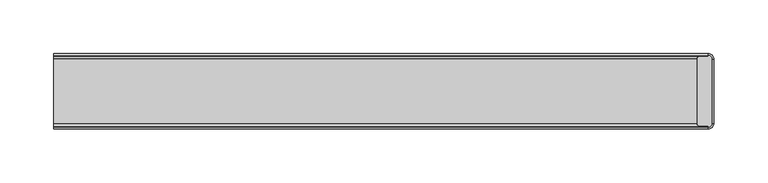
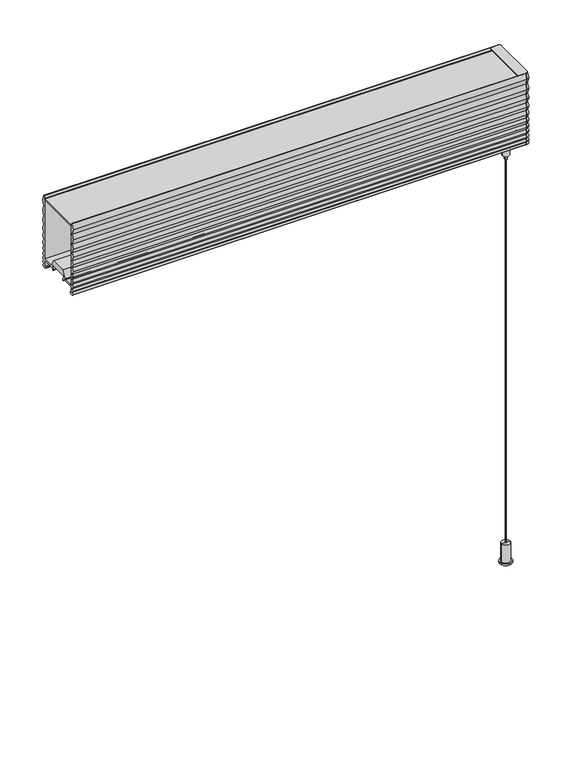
"""IFC4 building model written with IfcOpenShell, lengths in millimetres: light fixture geometry, Lighting-Pendant-Betacalco-Bellows-Straight : BLLC-DT1-SL04-LPF020-CR80-CTA40-DD1-FA01."""

from ifc_helpers import new_model, si_unit, point, frame, frame_2d, origin, place, context, project, spatial, polyline, circle_curve, trimmed, segment, composite_curve, outline, extrude, source, transform, mapped, element, save
from ifc_brep_helpers import plane_surface, cylinder_surface, revolved_surface, advanced_brep


def light_fixture_d8fbe685(model_context):
    return source(origin(), model_context, "Body", "SolidModel", [
        advanced_brep(
        [(304.8, 35.1474913, 611.632), (304.8, 33.3694913, 609.6), (304.8, -33.3694913, 609.6), (304.8, -35.1474913, 611.632), (304.8, -33.3694913, 613.664), (304.8, -35.1474913, 616.204), (304.8, -33.3694913, 618.744), (304.8, -35.1474913, 621.792), (304.8, -33.3694913, 624.84), (304.8, -35.1474913, 628.396), (304.8, -33.3694913, 631.952), (304.8, -35.1474913, 635.762), (304.8, -33.3694913, 639.572), (304.8, -35.11885, 644.0703509), (304.8, -33.3966915, 648.6460566), (304.8, -35.1239968, 653.7288728), (304.8, -33.3919128, 658.8119386), (304.8, -35.1278878, 664.402389), (304.8, -33.3882749, 669.9929656), (304.8, -35.1308966, 676.091104), (304.8, -33.3848944, 682.1911894), (304.8, -35.1351705, 689.3067168), (304.8, -33.3815995, 696.4195673), (304.8, -35.1359826, 703.786321), (304.8, -33.3694913, 711.2), (304.8, -32.6229178, 711.2), (304.8, -32.6229178, 709.8332722), (304.8, 32.6229178, 709.8332722), (304.8, 32.6229178, 711.2), (304.8, 33.3694913, 711.2), (304.8, 35.1359826, 703.786321), (304.8, 33.3815995, 696.4195673), (304.8, 35.1351705, 689.3067168), (304.8, 33.3848944, 682.1911894), (304.8, 35.1308966, 676.091104), (304.8, 33.3882749, 669.9929656), (304.8, 35.1278878, 664.402389), (304.8, 33.3919128, 658.8119386), (304.8, 35.1239968, 653.7288728), (304.8, 33.3966915, 648.6460566), (304.8, 35.11885, 644.0703509), (304.8, 33.3694913, 639.572), (304.8, 35.1474913, 635.762), (304.8, 33.3694913, 631.952), (304.8, 35.1474913, 628.396), (304.8, 33.3694913, 624.84), (304.8, 35.1474913, 621.792), (304.8, 33.3694913, 618.744), (304.8, 35.1474913, 616.204), (304.8, 33.3694913, 613.664), (309.991, 29.9564913, 611.632), (308.213, 29.9564913, 609.6), (308.213, -29.9564913, 609.6), (308.213, 29.9564913, 711.2), (295.9807007, 32.5154703, 711.2), (294.8222216, 31.4000598, 711.2), (294.8222216, -31.4000598, 711.2), (295.9807007, -32.5154703, 711.2), (308.213, -29.9564913, 711.2), (309.9794913, 29.9564913, 703.786321), (308.2251082, 29.9564913, 696.4195673), (309.9786792, 29.9564913, 689.3067168), (308.2284031, 29.9564913, 682.1911894), (309.9744054, 29.9564913, 676.091104), (308.2317837, 29.9564913, 669.9929656), (309.9713965, 29.9564913, 664.402389), (308.2354215, 29.9564913, 658.8119386), (309.9675055, 29.9564913, 653.7288728), (308.2402002, 29.9564913, 648.6460566), (309.9623587, 29.9564913, 644.0703509), (308.213, 29.9564913, 639.572), (309.991, 29.9564913, 635.762), (308.213, 29.9564913, 631.952), (309.991, 29.9564913, 628.396), (308.213, 29.9564913, 624.84), (309.991, 29.9564913, 621.792), (308.213, 29.9564913, 618.744), (309.991, 29.9564913, 616.204), (308.213, 29.9564913, 613.664), (309.991, -29.9564913, 611.632), (309.9794913, -29.9564913, 703.786321), (308.2251082, -29.9564913, 696.4195673), (309.9786792, -29.9564913, 689.3067168), (308.2284031, -29.9564913, 682.1911894), (309.9744054, -29.9564913, 676.091104), (308.2317837, -29.9564913, 669.9929656), (309.9713965, -29.9564913, 664.402389), (308.2354215, -29.9564913, 658.8119386), (309.9675055, -29.9564913, 653.7288728), (308.2402002, -29.9564913, 648.6460566), (309.9623587, -29.9564913, 644.0703509), (308.213, -29.9564913, 639.572), (309.991, -29.9564913, 635.762), (308.213, -29.9564913, 631.952), (309.991, -29.9564913, 628.396), (308.213, -29.9564913, 624.84), (309.991, -29.9564913, 621.792), (308.213, -29.9564913, 618.744), (309.991, -29.9564913, 616.204), (308.213, -29.9564913, 613.664), (294.8222216, -31.4000598, 709.8332722), (294.8222216, 31.4000598, 709.8332722), (295.9807007, 32.5154703, 709.8332722), (295.9807007, -32.5154703, 709.8332722)],
        [
            (0, 1),
            (1, 2),
            (2, 3),
            (3, 4),
            (4, 5),
            (5, 6),
            (6, 7),
            (7, 8),
            (8, 9),
            (9, 10),
            (10, 11),
            (11, 12),
            (12, 13),
            (13, 14),
            (14, 15),
            (15, 16),
            (16, 17),
            (17, 18),
            (18, 19),
            (19, 20),
            (20, 21),
            (21, 22),
            (22, 23),
            (23, 24),
            (24, 25),
            (25, 26),
            (26, 27),
            (27, 28),
            (28, 29),
            (29, 30),
            (30, 31),
            (31, 32),
            (32, 33),
            (33, 34),
            (34, 35),
            (35, 36),
            (36, 37),
            (37, 38),
            (38, 39),
            (39, 40),
            (40, 41),
            (41, 42),
            (42, 43),
            (43, 44),
            (44, 45),
            (45, 46),
            (46, 47),
            (47, 48),
            (48, 49),
            (49, 0),
            (0, 50, circle_curve(frame((304.8, 29.9564913, 611.632), z_axis=(0.0, 0.0, -1.0), x_axis=(0.0, 1.0, 0.0)), 5.191)),
            (50, 51),
            (51, 1, circle_curve(frame((304.8, 29.9564913, 609.6), z_axis=(0.0, 0.0, 1.0), x_axis=(0.0, 1.0, 0.0)), 3.413)),
            (51, 52),
            (52, 2, circle_curve(frame((304.8, -29.9564913, 609.6), z_axis=(0.0, 0.0, -1.0), x_axis=(1.0, 0.0, 0.0)), 3.413)),
            (53, 29, circle_curve(frame((304.8, 29.9564913, 711.2), z_axis=(0.0, 0.0, 1.0), x_axis=(0.0, 1.0, 0.0)), 3.413)),
            (28, 54),
            (54, 55),
            (55, 56),
            (56, 57),
            (57, 25),
            (24, 58, circle_curve(frame((304.8, -29.9564913, 711.2), z_axis=(0.0, 0.0, 1.0), x_axis=(1.0, 0.0, 0.0)), 3.413)),
            (58, 53),
            (53, 59),
            (59, 30, circle_curve(frame((304.8, 29.9564913, 703.786321), z_axis=(0.0, 0.0, 1.0), x_axis=(0.0, 1.0, 0.0)), 5.1794913)),
            (59, 60),
            (60, 31, circle_curve(frame((304.8, 29.9564913, 696.4195673), z_axis=(0.0, 0.0, 1.0), x_axis=(0.0, 1.0, 0.0)), 3.4251082)),
            (60, 61),
            (61, 32, circle_curve(frame((304.8, 29.9564913, 689.3067168), z_axis=(0.0, 0.0, 1.0), x_axis=(0.0, 1.0, 0.0)), 5.1786792)),
            (61, 62),
            (62, 33, circle_curve(frame((304.8, 29.9564913, 682.1911894), z_axis=(0.0, 0.0, 1.0), x_axis=(0.0, 1.0, 0.0)), 3.4284031)),
            (62, 63),
            (63, 34, circle_curve(frame((304.8, 29.9564913, 676.091104), z_axis=(0.0, 0.0, 1.0), x_axis=(0.0, 1.0, 0.0)), 5.1744054)),
            (63, 64),
            (64, 35, circle_curve(frame((304.8, 29.9564913, 669.9929656), z_axis=(0.0, 0.0, 1.0), x_axis=(0.0, 1.0, 0.0)), 3.4317837)),
            (64, 65),
            (65, 36, circle_curve(frame((304.8, 29.9564913, 664.402389), z_axis=(0.0, 0.0, 1.0), x_axis=(0.0, 1.0, 0.0)), 5.1713965)),
            (65, 66),
            (66, 37, circle_curve(frame((304.8, 29.9564913, 658.8119386), z_axis=(0.0, 0.0, 1.0), x_axis=(0.0, 1.0, 0.0)), 3.4354215)),
            (66, 67),
            (67, 38, circle_curve(frame((304.8, 29.9564913, 653.7288728), z_axis=(0.0, 0.0, 1.0), x_axis=(0.0, 1.0, 0.0)), 5.1675055)),
            (67, 68),
            (68, 39, circle_curve(frame((304.8, 29.9564913, 648.6460566), z_axis=(0.0, 0.0, 1.0), x_axis=(0.0, 1.0, 0.0)), 3.4402002)),
            (68, 69),
            (69, 40, circle_curve(frame((304.8, 29.9564913, 644.0703509), z_axis=(0.0, 0.0, 1.0), x_axis=(0.0, 1.0, 0.0)), 5.1623587)),
            (69, 70),
            (70, 41, circle_curve(frame((304.8, 29.9564913, 639.572), z_axis=(0.0, 0.0, 1.0), x_axis=(0.0, 1.0, 0.0)), 3.413)),
            (70, 71),
            (71, 42, circle_curve(frame((304.8, 29.9564913, 635.762), z_axis=(0.0, 0.0, 1.0), x_axis=(0.0, 1.0, 0.0)), 5.191)),
            (71, 72),
            (72, 43, circle_curve(frame((304.8, 29.9564913, 631.952), z_axis=(0.0, 0.0, 1.0), x_axis=(0.0, 1.0, 0.0)), 3.413)),
            (72, 73),
            (73, 44, circle_curve(frame((304.8, 29.9564913, 628.396), z_axis=(0.0, 0.0, 1.0), x_axis=(0.0, 1.0, 0.0)), 5.191)),
            (73, 74),
            (74, 45, circle_curve(frame((304.8, 29.9564913, 624.84), z_axis=(0.0, 0.0, 1.0), x_axis=(0.0, 1.0, 0.0)), 3.413)),
            (74, 75),
            (75, 46, circle_curve(frame((304.8, 29.9564913, 621.792), z_axis=(0.0, 0.0, 1.0), x_axis=(0.0, 1.0, 0.0)), 5.191)),
            (75, 76),
            (76, 47, circle_curve(frame((304.8, 29.9564913, 618.744), z_axis=(0.0, 0.0, 1.0), x_axis=(0.0, 1.0, 0.0)), 3.413)),
            (76, 77),
            (77, 48, circle_curve(frame((304.8, 29.9564913, 616.204), z_axis=(0.0, 0.0, 1.0), x_axis=(0.0, 1.0, 0.0)), 5.191)),
            (77, 78),
            (78, 49, circle_curve(frame((304.8, 29.9564913, 613.664), z_axis=(0.0, 0.0, 1.0), x_axis=(0.0, 1.0, 0.0)), 3.413)),
            (78, 50),
            (50, 79),
            (79, 52),
            (58, 80),
            (80, 59),
            (80, 81),
            (81, 60),
            (81, 82),
            (82, 61),
            (82, 83),
            (83, 62),
            (83, 84),
            (84, 63),
            (84, 85),
            (85, 64),
            (85, 86),
            (86, 65),
            (86, 87),
            (87, 66),
            (87, 88),
            (88, 67),
            (88, 89),
            (89, 68),
            (89, 90),
            (90, 69),
            (90, 91),
            (91, 70),
            (91, 92),
            (92, 71),
            (92, 93),
            (93, 72),
            (93, 94),
            (94, 73),
            (94, 95),
            (95, 74),
            (95, 96),
            (96, 75),
            (96, 97),
            (97, 76),
            (97, 98),
            (98, 77),
            (98, 99),
            (99, 78),
            (99, 79),
            (100, 101),
            (101, 102),
            (102, 27),
            (26, 103),
            (103, 100),
            (56, 100),
            (103, 57),
            (102, 54),
            (101, 55),
            (79, 3, circle_curve(frame((304.8, -29.9564913, 611.632), z_axis=(0.0, 0.0, -1.0), x_axis=(1.0, 0.0, 0.0)), 5.191)),
            (23, 80, circle_curve(frame((304.8, -29.9564913, 703.786321), z_axis=(0.0, 0.0, 1.0), x_axis=(1.0, 0.0, 0.0)), 5.1794913)),
            (22, 81, circle_curve(frame((304.8, -29.9564913, 696.4195673), z_axis=(0.0, 0.0, 1.0), x_axis=(1.0, 0.0, 0.0)), 3.4251082)),
            (21, 82, circle_curve(frame((304.8, -29.9564913, 689.3067168), z_axis=(0.0, 0.0, 1.0), x_axis=(1.0, 0.0, 0.0)), 5.1786792)),
            (20, 83, circle_curve(frame((304.8, -29.9564913, 682.1911894), z_axis=(0.0, 0.0, 1.0), x_axis=(1.0, 0.0, 0.0)), 3.4284031)),
            (19, 84, circle_curve(frame((304.8, -29.9564913, 676.091104), z_axis=(0.0, 0.0, 1.0), x_axis=(1.0, 0.0, 0.0)), 5.1744054)),
            (18, 85, circle_curve(frame((304.8, -29.9564913, 669.9929656), z_axis=(0.0, 0.0, 1.0), x_axis=(1.0, 0.0, 0.0)), 3.4317837)),
            (17, 86, circle_curve(frame((304.8, -29.9564913, 664.402389), z_axis=(0.0, 0.0, 1.0), x_axis=(1.0, 0.0, 0.0)), 5.1713965)),
            (16, 87, circle_curve(frame((304.8, -29.9564913, 658.8119386), z_axis=(0.0, 0.0, 1.0), x_axis=(1.0, 0.0, 0.0)), 3.4354215)),
            (15, 88, circle_curve(frame((304.8, -29.9564913, 653.7288728), z_axis=(0.0, 0.0, 1.0), x_axis=(1.0, 0.0, 0.0)), 5.1675055)),
            (14, 89, circle_curve(frame((304.8, -29.9564913, 648.6460566), z_axis=(0.0, 0.0, 1.0), x_axis=(1.0, 0.0, 0.0)), 3.4402002)),
            (13, 90, circle_curve(frame((304.8, -29.9564913, 644.0703509), z_axis=(0.0, 0.0, 1.0), x_axis=(1.0, 0.0, 0.0)), 5.1623587)),
            (12, 91, circle_curve(frame((304.8, -29.9564913, 639.572), z_axis=(0.0, 0.0, 1.0), x_axis=(1.0, 0.0, 0.0)), 3.413)),
            (11, 92, circle_curve(frame((304.8, -29.9564913, 635.762), z_axis=(0.0, 0.0, 1.0), x_axis=(1.0, 0.0, 0.0)), 5.191)),
            (10, 93, circle_curve(frame((304.8, -29.9564913, 631.952), z_axis=(0.0, 0.0, 1.0), x_axis=(1.0, 0.0, 0.0)), 3.413)),
            (9, 94, circle_curve(frame((304.8, -29.9564913, 628.396), z_axis=(0.0, 0.0, 1.0), x_axis=(1.0, 0.0, 0.0)), 5.191)),
            (8, 95, circle_curve(frame((304.8, -29.9564913, 624.84), z_axis=(0.0, 0.0, 1.0), x_axis=(1.0, 0.0, 0.0)), 3.413)),
            (7, 96, circle_curve(frame((304.8, -29.9564913, 621.792), z_axis=(0.0, 0.0, 1.0), x_axis=(1.0, 0.0, 0.0)), 5.191)),
            (6, 97, circle_curve(frame((304.8, -29.9564913, 618.744), z_axis=(0.0, 0.0, 1.0), x_axis=(1.0, 0.0, 0.0)), 3.413)),
            (5, 98, circle_curve(frame((304.8, -29.9564913, 616.204), z_axis=(0.0, 0.0, 1.0), x_axis=(1.0, 0.0, 0.0)), 5.191)),
            (4, 99, circle_curve(frame((304.8, -29.9564913, 613.664), z_axis=(0.0, 0.0, 1.0), x_axis=(1.0, 0.0, 0.0)), 3.413)),
        ],
        [
            plane_surface(frame((304.8, 35.3935941, 609.6), z_axis=(-1.0, 0.0, 0.0), x_axis=(0.0, 0.0, 1.0))),
            revolved_surface(polyline([(304.8, 35.1474913, 611.632), (304.8, 33.3694913, 609.6)]), (304.8, 29.9564913, 609.6), (0.0, 0.0, -1.0)),
            plane_surface(frame((304.8, 29.9564913, 609.6), z_axis=(0.0, 0.0, -1.0), x_axis=(0.0, 1.0, 0.0))),
            plane_surface(frame((304.8, 29.9564913, 711.2), z_axis=(0.0, 0.0, 1.0), x_axis=(0.0, 1.0, 0.0))),
            revolved_surface(polyline([(304.8, 33.3694913, 711.2), (304.8, 35.1359826, 703.786321)]), (304.8, 29.9564913, 609.6), (0.0, 0.0, -1.0)),
            revolved_surface(polyline([(304.8, 35.1359826, 703.786321), (304.8, 33.3815995, 696.4195673)]), (304.8, 29.9564913, 609.6), (0.0, 0.0, -1.0)),
            revolved_surface(polyline([(304.8, 33.3815995, 696.4195673), (304.8, 35.1351705, 689.3067168)]), (304.8, 29.9564913, 609.6), (0.0, 0.0, -1.0)),
            revolved_surface(polyline([(304.8, 35.1351705, 689.3067168), (304.8, 33.3848944, 682.1911894)]), (304.8, 29.9564913, 609.6), (0.0, 0.0, -1.0)),
            revolved_surface(polyline([(304.8, 33.3848944, 682.1911894), (304.8, 35.1308966, 676.091104)]), (304.8, 29.9564913, 609.6), (0.0, 0.0, -1.0)),
            revolved_surface(polyline([(304.8, 35.1308966, 676.091104), (304.8, 33.3882749, 669.9929656)]), (304.8, 29.9564913, 609.6), (0.0, 0.0, -1.0)),
            revolved_surface(polyline([(304.8, 33.3882749, 669.9929656), (304.8, 35.1278878, 664.402389)]), (304.8, 29.9564913, 609.6), (0.0, 0.0, -1.0)),
            revolved_surface(polyline([(304.8, 35.1278878, 664.402389), (304.8, 33.3919128, 658.8119386)]), (304.8, 29.9564913, 609.6), (0.0, 0.0, -1.0)),
            revolved_surface(polyline([(304.8, 33.3919128, 658.8119386), (304.8, 35.1239968, 653.7288728)]), (304.8, 29.9564913, 609.6), (0.0, 0.0, -1.0)),
            revolved_surface(polyline([(304.8, 35.1239968, 653.7288728), (304.8, 33.3966915, 648.6460566)]), (304.8, 29.9564913, 609.6), (0.0, 0.0, -1.0)),
            revolved_surface(polyline([(304.8, 33.3966915, 648.6460566), (304.8, 35.11885, 644.0703509)]), (304.8, 29.9564913, 609.6), (0.0, 0.0, -1.0)),
            revolved_surface(polyline([(304.8, 35.11885, 644.0703509), (304.8, 33.3694913, 639.572)]), (304.8, 29.9564913, 609.6), (0.0, 0.0, -1.0)),
            revolved_surface(polyline([(304.8, 33.3694913, 639.572), (304.8, 35.1474913, 635.762)]), (304.8, 29.9564913, 609.6), (0.0, 0.0, -1.0)),
            revolved_surface(polyline([(304.8, 35.1474913, 635.762), (304.8, 33.3694913, 631.952)]), (304.8, 29.9564913, 609.6), (0.0, 0.0, -1.0)),
            revolved_surface(polyline([(304.8, 33.3694913, 631.952), (304.8, 35.1474913, 628.396)]), (304.8, 29.9564913, 609.6), (0.0, 0.0, -1.0)),
            revolved_surface(polyline([(304.8, 35.1474913, 628.396), (304.8, 33.3694913, 624.84)]), (304.8, 29.9564913, 609.6), (0.0, 0.0, -1.0)),
            revolved_surface(polyline([(304.8, 33.3694913, 624.84), (304.8, 35.1474913, 621.792)]), (304.8, 29.9564913, 609.6), (0.0, 0.0, -1.0)),
            revolved_surface(polyline([(304.8, 35.1474913, 621.792), (304.8, 33.3694913, 618.744)]), (304.8, 29.9564913, 609.6), (0.0, 0.0, -1.0)),
            revolved_surface(polyline([(304.8, 33.3694913, 618.744), (304.8, 35.1474913, 616.204)]), (304.8, 29.9564913, 609.6), (0.0, 0.0, -1.0)),
            revolved_surface(polyline([(304.8, 35.1474913, 616.204), (304.8, 33.3694913, 613.664)]), (304.8, 29.9564913, 609.6), (0.0, 0.0, -1.0)),
            revolved_surface(polyline([(304.8, 33.3694913, 613.664), (304.8, 35.1474913, 611.632)]), (304.8, 29.9564913, 609.6), (0.0, 0.0, -1.0)),
            plane_surface(frame((309.991, 29.9564913, 611.632), z_axis=(0.7525766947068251, 0.0, -0.6585046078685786), x_axis=(0.0, -1.0, 0.0))),
            plane_surface(frame((308.213, 29.9564913, 711.2), z_axis=(0.9727668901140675, 0.0, 0.23178562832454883), x_axis=(0.0, -1.0, 0.0))),
            plane_surface(frame((309.9794913, 29.9564913, 703.786321), z_axis=(0.9727944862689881, 0.0, -0.23166978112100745), x_axis=(0.0, -1.0, 0.0))),
            plane_surface(frame((308.2251082, 29.9564913, 696.4195673), z_axis=(0.9709287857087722, 0.0, 0.23936852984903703), x_axis=(0.0, -1.0, 0.0))),
            plane_surface(frame((309.9786792, 29.9564913, 689.3067168), z_axis=(0.9710540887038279, 0.0, -0.23885970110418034), x_axis=(0.0, -1.0, 0.0))),
            plane_surface(frame((308.2284031, 29.9564913, 682.1911894), z_axis=(0.9613939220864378, 0.0, 0.27517581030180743), x_axis=(0.0, -1.0, 0.0))),
            plane_surface(frame((309.9744054, 29.9564913, 676.091104), z_axis=(0.9615116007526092, 0.0, -0.2747643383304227), x_axis=(0.0, -1.0, 0.0))),
            plane_surface(frame((308.2317837, 29.9564913, 669.9929656), z_axis=(0.9548411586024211, 0.0, 0.29711674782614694), x_axis=(0.0, -1.0, 0.0))),
            plane_surface(frame((309.9713965, 29.9564913, 664.402389), z_axis=(0.9550153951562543, 0.0, -0.29655622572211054), x_axis=(0.0, -1.0, 0.0))),
            plane_surface(frame((308.2354215, 29.9564913, 658.8119386), z_axis=(0.9465545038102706, 0.0, 0.3225439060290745), x_axis=(0.0, -1.0, 0.0))),
            plane_surface(frame((309.9675055, 29.9564913, 653.7288728), z_axis=(0.9468211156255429, 0.0, -0.3217604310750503), x_axis=(0.0, -1.0, 0.0))),
            plane_surface(frame((308.2402002, 29.9564913, 648.6460566), z_axis=(0.9359069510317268, 0.0, 0.3522473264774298), x_axis=(0.0, -1.0, 0.0))),
            plane_surface(frame((309.9623587, 29.9564913, 644.0703509), z_axis=(0.9320046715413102, 0.0, -0.36244626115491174), x_axis=(0.0, -1.0, 0.0))),
            plane_surface(frame((308.213, 29.9564913, 639.572), z_axis=(0.9061831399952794, 0.0, 0.42288546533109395), x_axis=(0.0, -1.0, 0.0))),
            plane_surface(frame((309.991, 29.9564913, 635.762), z_axis=(0.9061831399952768, 0.0, -0.42288546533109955), x_axis=(0.0, -1.0, 0.0))),
            plane_surface(frame((308.213, 29.9564913, 631.952), z_axis=(0.8944271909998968, 0.0, 0.4472135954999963), x_axis=(0.0, -1.0, 0.0))),
            plane_surface(frame((309.991, 29.9564913, 628.396), z_axis=(0.8944271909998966, 0.0, -0.44721359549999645), x_axis=(0.0, -1.0, 0.0))),
            plane_surface(frame((308.213, 29.9564913, 624.84), z_axis=(0.8637789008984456, 0.0, 0.5038710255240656), x_axis=(0.0, -1.0, 0.0))),
            plane_surface(frame((309.991, 29.9564913, 621.792), z_axis=(0.8637789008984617, 0.0, -0.503871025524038), x_axis=(0.0, -1.0, 0.0))),
            plane_surface(frame((308.213, 29.9564913, 618.744), z_axis=(0.8192319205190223, 0.0, 0.5734623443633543), x_axis=(0.0, -1.0, 0.0))),
            plane_surface(frame((309.991, 29.9564913, 616.204), z_axis=(0.8192319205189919, 0.0, -0.5734623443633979), x_axis=(0.0, -1.0, 0.0))),
            plane_surface(frame((308.213, 29.9564913, 613.664), z_axis=(0.7525766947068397, 0.0, 0.6585046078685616), x_axis=(0.0, -1.0, 0.0))),
            plane_surface(frame((294.8222216, -31.4000598, 709.8332722), z_axis=(0.0, 0.0, -1.0), x_axis=(-0.7203705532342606, 0.6935894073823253, 0.0))),
            plane_surface(frame((294.8222216, -31.4000598, 711.2), z_axis=(-0.6935894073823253, -0.7203705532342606, 0.0), x_axis=(0.0, 0.0, -1.0))),
            plane_surface(frame((295.9807007, -32.5154703, 711.2), z_axis=(-0.012182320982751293, -0.9999257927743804, 0.0), x_axis=(0.0, 0.0, -1.0))),
            plane_surface(frame((304.8, 32.6229178, 711.2), z_axis=(-0.012182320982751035, 0.9999257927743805, 0.0), x_axis=(0.0, 0.0, -1.0))),
            plane_surface(frame((295.9807007, 32.5154703, 711.2), z_axis=(-0.6935894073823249, 0.7203705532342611, 0.0), x_axis=(0.0, 0.0, -1.0))),
            plane_surface(frame((294.8222216, 31.4000598, 711.2), z_axis=(-1.0, 0.0, 0.0), x_axis=(0.0, 0.0, -1.0))),
            revolved_surface(polyline([(309.991, -29.9564913, 611.632), (308.213, -29.9564913, 609.6)]), (304.8, -29.9564913, 609.6), (0.0, 0.0, -1.0)),
            revolved_surface(polyline([(308.213, -29.9564913, 711.2), (309.9794913, -29.9564913, 703.786321)]), (304.8, -29.9564913, 609.6), (0.0, 0.0, -1.0)),
            revolved_surface(polyline([(309.9794913, -29.9564913, 703.786321), (308.2251082, -29.9564913, 696.4195673)]), (304.8, -29.9564913, 609.6), (0.0, 0.0, -1.0)),
            revolved_surface(polyline([(308.2251082, -29.9564913, 696.4195673), (309.9786792, -29.9564913, 689.3067168)]), (304.8, -29.9564913, 609.6), (0.0, 0.0, -1.0)),
            revolved_surface(polyline([(309.9786792, -29.9564913, 689.3067168), (308.2284031, -29.9564913, 682.1911894)]), (304.8, -29.9564913, 609.6), (0.0, 0.0, -1.0)),
            revolved_surface(polyline([(308.2284031, -29.9564913, 682.1911894), (309.9744054, -29.9564913, 676.091104)]), (304.8, -29.9564913, 609.6), (0.0, 0.0, -1.0)),
            revolved_surface(polyline([(309.9744054, -29.9564913, 676.091104), (308.2317837, -29.9564913, 669.9929656)]), (304.8, -29.9564913, 609.6), (0.0, 0.0, -1.0)),
            revolved_surface(polyline([(308.2317837, -29.9564913, 669.9929656), (309.9713965, -29.9564913, 664.402389)]), (304.8, -29.9564913, 609.6), (0.0, 0.0, -1.0)),
            revolved_surface(polyline([(309.9713965, -29.9564913, 664.402389), (308.2354215, -29.9564913, 658.8119386)]), (304.8, -29.9564913, 609.6), (0.0, 0.0, -1.0)),
            revolved_surface(polyline([(308.2354215, -29.9564913, 658.8119386), (309.9675055, -29.9564913, 653.7288728)]), (304.8, -29.9564913, 609.6), (0.0, 0.0, -1.0)),
            revolved_surface(polyline([(309.9675055, -29.9564913, 653.7288728), (308.2402002, -29.9564913, 648.6460566)]), (304.8, -29.9564913, 609.6), (0.0, 0.0, -1.0)),
            revolved_surface(polyline([(308.2402002, -29.9564913, 648.6460566), (309.9623587, -29.9564913, 644.0703509)]), (304.8, -29.9564913, 609.6), (0.0, 0.0, -1.0)),
            revolved_surface(polyline([(309.9623587, -29.9564913, 644.0703509), (308.213, -29.9564913, 639.572)]), (304.8, -29.9564913, 609.6), (0.0, 0.0, -1.0)),
            revolved_surface(polyline([(308.213, -29.9564913, 639.572), (309.991, -29.9564913, 635.762)]), (304.8, -29.9564913, 609.6), (0.0, 0.0, -1.0)),
            revolved_surface(polyline([(309.991, -29.9564913, 635.762), (308.213, -29.9564913, 631.952)]), (304.8, -29.9564913, 609.6), (0.0, 0.0, -1.0)),
            revolved_surface(polyline([(308.213, -29.9564913, 631.952), (309.991, -29.9564913, 628.396)]), (304.8, -29.9564913, 609.6), (0.0, 0.0, -1.0)),
            revolved_surface(polyline([(309.991, -29.9564913, 628.396), (308.213, -29.9564913, 624.84)]), (304.8, -29.9564913, 609.6), (0.0, 0.0, -1.0)),
            revolved_surface(polyline([(308.213, -29.9564913, 624.84), (309.991, -29.9564913, 621.792)]), (304.8, -29.9564913, 609.6), (0.0, 0.0, -1.0)),
            revolved_surface(polyline([(309.991, -29.9564913, 621.792), (308.213, -29.9564913, 618.744)]), (304.8, -29.9564913, 609.6), (0.0, 0.0, -1.0)),
            revolved_surface(polyline([(308.213, -29.9564913, 618.744), (309.991, -29.9564913, 616.204)]), (304.8, -29.9564913, 609.6), (0.0, 0.0, -1.0)),
            revolved_surface(polyline([(309.991, -29.9564913, 616.204), (308.213, -29.9564913, 613.664)]), (304.8, -29.9564913, 609.6), (0.0, 0.0, -1.0)),
            revolved_surface(polyline([(308.213, -29.9564913, 613.664), (309.991, -29.9564913, 611.632)]), (304.8, -29.9564913, 609.6), (0.0, 0.0, -1.0)),
        ],
        [
            (0, [[1, 2, 3, 4, 5, 6, 7, 8, 9, 10, 11, 12, 13, 14, 15, 16, 17, 18, 19, 20, 21, 22, 23, 24, 25, 26, 27, 28, 29, 30, 31, 32, 33, 34, 35, 36, 37, 38, 39, 40, 41, 42, 43, 44, 45, 46, 47, 48, 49, 50]]),
            (1, [[-1, 51, 52, 53]]),
            (2, [[-2, -53, 54, 55]]),
            (3, [[56, -29, 57, 58, 59, 60, 61, -25, 62, 63]]),
            (4, [[-30, -56, 64, 65]]),
            (5, [[-31, -65, 66, 67]]),
            (6, [[-32, -67, 68, 69]]),
            (7, [[-33, -69, 70, 71]]),
            (8, [[-34, -71, 72, 73]]),
            (9, [[-35, -73, 74, 75]]),
            (10, [[-36, -75, 76, 77]]),
            (11, [[-37, -77, 78, 79]]),
            (12, [[-38, -79, 80, 81]]),
            (13, [[-39, -81, 82, 83]]),
            (14, [[-40, -83, 84, 85]]),
            (15, [[-41, -85, 86, 87]]),
            (16, [[-42, -87, 88, 89]]),
            (17, [[-43, -89, 90, 91]]),
            (18, [[-44, -91, 92, 93]]),
            (19, [[-45, -93, 94, 95]]),
            (20, [[-46, -95, 96, 97]]),
            (21, [[-47, -97, 98, 99]]),
            (22, [[-48, -99, 100, 101]]),
            (23, [[-49, -101, 102, 103]]),
            (24, [[-50, -103, 104, -51]]),
            (25, [[-52, 105, 106, -54]]),
            (26, [[-63, 107, 108, -64]]),
            (27, [[-66, -108, 109, 110]]),
            (28, [[-68, -110, 111, 112]]),
            (29, [[-70, -112, 113, 114]]),
            (30, [[-72, -114, 115, 116]]),
            (31, [[-74, -116, 117, 118]]),
            (32, [[-76, -118, 119, 120]]),
            (33, [[-78, -120, 121, 122]]),
            (34, [[-80, -122, 123, 124]]),
            (35, [[-82, -124, 125, 126]]),
            (36, [[-84, -126, 127, 128]]),
            (37, [[-86, -128, 129, 130]]),
            (38, [[-88, -130, 131, 132]]),
            (39, [[-90, -132, 133, 134]]),
            (40, [[-92, -134, 135, 136]]),
            (41, [[-94, -136, 137, 138]]),
            (42, [[-96, -138, 139, 140]]),
            (43, [[-98, -140, 141, 142]]),
            (44, [[-100, -142, 143, 144]]),
            (45, [[-102, -144, 145, 146]]),
            (46, [[-104, -146, 147, -105]]),
            (47, [[148, 149, 150, -27, 151, 152]]),
            (48, [[-60, 153, -152, 154]]),
            (49, [[-61, -154, -151, -26]]),
            (50, [[-57, -28, -150, 155]]),
            (51, [[-58, -155, -149, 156]]),
            (52, [[-59, -156, -148, -153]]),
            (53, [[-55, -106, 157, -3]]),
            (54, [[-62, -24, 158, -107]]),
            (55, [[-109, -158, -23, 159]]),
            (56, [[-111, -159, -22, 160]]),
            (57, [[-113, -160, -21, 161]]),
            (58, [[-115, -161, -20, 162]]),
            (59, [[-117, -162, -19, 163]]),
            (60, [[-119, -163, -18, 164]]),
            (61, [[-121, -164, -17, 165]]),
            (62, [[-123, -165, -16, 166]]),
            (63, [[-125, -166, -15, 167]]),
            (64, [[-127, -167, -14, 168]]),
            (65, [[-129, -168, -13, 169]]),
            (66, [[-131, -169, -12, 170]]),
            (67, [[-133, -170, -11, 171]]),
            (68, [[-135, -171, -10, 172]]),
            (69, [[-137, -172, -9, 173]]),
            (70, [[-139, -173, -8, 174]]),
            (71, [[-141, -174, -7, 175]]),
            (72, [[-143, -175, -6, 176]]),
            (73, [[-145, -176, -5, 177]]),
            (74, [[-147, -177, -4, -157]]),
        ],
    ),
        extrude(outline(composite_curve([segment(trimmed(circle_curve(frame_2d((9.7634085, 617.6899758)), 3.0000001), [point((12.4477579, 616.3504727))], [point((10.5526102, 614.7956432))], False, "CARTESIAN"), True, "CONTINUOUS"), segment(trimmed(circle_curve(frame_2d((0.0, 653.4964752)), 40.113738), [point((10.5526102, 614.7956432))], [point((-10.5526102, 614.7956432))], False, "CARTESIAN"), True, "CONTINUOUS"), segment(trimmed(circle_curve(frame_2d((-9.7634085, 617.6899758)), 3.0000001), [point((-10.5526102, 614.7956432))], [point((-12.4477579, 616.3504727))], False, "CARTESIAN"), True, "CONTINUOUS"), segment(polyline([(-12.4477579, 616.3504727), (-13.0732308, 617.6039135), (13.0732308, 617.6039135), (12.4477579, 616.3504727)]), True, "CONTINUOUS")], self_intersect=False)), frame((-270.51, 0.0, 0.0), z_axis=(1.0, 0.0, 0.0), x_axis=(0.0, 1.0, 0.0)), (0.0, 0.0, 1.0), 541.02),
        extrude(outline(polyline([(304.8, 30.1625), (304.8, -30.1625), (288.925, -30.1625), (288.925, 30.1625), (304.8, 30.1625)])), frame((0.0, 0.0, 612.648), z_axis=(0.0, 0.0, 1.0), x_axis=(1.0, 0.0, 0.0)), (0.0, 0.0, 1.0), 1.524),
        advanced_brep(
        [(304.8625, 0.0, 0.0), (288.8625, 0.0, 0.0), (288.8625, 0.0, 2.05), (304.8625, 0.0, 2.05), (290.8625, 0.0, 2.05), (302.8625, 0.0, 2.05), (290.8625, 0.0, 27.4), (302.8625, 0.0, 27.4), (296.8625, 0.0, 27.4), (296.8625, 0.0, 0.0)],
        [
            (0, 1, circle_curve(frame((296.8625, 0.0, 0.0), z_axis=(0.0, 0.0, 1.0), x_axis=(-1.0, 0.0, 0.0)), 8.0)),
            (1, 2),
            (2, 3, circle_curve(frame((296.8625, 0.0, 2.05), z_axis=(0.0, 0.0, -1.0), x_axis=(-1.0, 0.0, 0.0)), 8.0)),
            (3, 0),
            (1, 0, circle_curve(frame((296.8625, 0.0, 0.0), z_axis=(0.0, 0.0, 1.0), x_axis=(-1.0, 0.0, 0.0)), 8.0)),
            (3, 2, circle_curve(frame((296.8625, 0.0, 2.05), z_axis=(0.0, 0.0, -1.0), x_axis=(-1.0, 0.0, 0.0)), 8.0)),
            (2, 4),
            (4, 5, circle_curve(frame((296.8625, 0.0, 2.05), z_axis=(0.0, 0.0, -1.0), x_axis=(-1.0, 0.0, 0.0)), 6.0)),
            (5, 3),
            (5, 4, circle_curve(frame((296.8625, 0.0, 2.05), z_axis=(0.0, 0.0, -1.0), x_axis=(-1.0, 0.0, 0.0)), 6.0)),
            (4, 6),
            (6, 7, circle_curve(frame((296.8625, 0.0, 27.4), z_axis=(0.0, 0.0, -1.0), x_axis=(-1.0, 0.0, 0.0)), 6.0)),
            (7, 5),
            (7, 6, circle_curve(frame((296.8625, 0.0, 27.4), z_axis=(0.0, 0.0, -1.0), x_axis=(-1.0, 0.0, 0.0)), 6.0)),
            (6, 8),
            (8, 7),
            (9, 1),
            (0, 9),
        ],
        [
            cylinder_surface(frame((296.8625, 0.0, 2366.7150031), z_axis=(0.0, 0.0, -1.0), x_axis=(-1.0, 0.0, 0.0)), 8.0),
            plane_surface(frame((296.8625, 0.0, 2.05), z_axis=(0.0, 0.0, 1.0), x_axis=(-1.0, 0.0, 0.0))),
            cylinder_surface(frame((296.8625, 0.0, 2366.7150031), z_axis=(0.0, 0.0, -1.0), x_axis=(-1.0, 0.0, 0.0)), 6.0),
            plane_surface(frame((296.8625, 0.0, 27.4), z_axis=(0.0, 0.0, 1.0), x_axis=(-1.0, 0.0, 0.0))),
            plane_surface(frame((296.8625, 0.0, 0.0), z_axis=(0.0, 0.0, -1.0), x_axis=(-1.0, 0.0, 0.0))),
        ],
        [
            (0, [[1, 2, 3, 4]]),
            (0, [[5, -4, 6, -2]]),
            (1, [[-3, 7, 8, 9]]),
            (1, [[-6, -9, 10, -7]]),
            (2, [[-8, 11, 12, 13]]),
            (2, [[-10, -13, 14, -11]]),
            (3, [[-12, 15, 16]]),
            (3, [[-14, -16, -15]]),
            (4, [[17, -1, 18]]),
            (4, [[-18, -5, -17]]),
        ],
    ),
        advanced_brep(
        [(297.6562476, 0.0, 27.4), (296.0687524, 0.0, 27.4), (296.0687524, 0.0, 572.93256), (297.6562476, 0.0, 572.93256), (296.8625, 0.0, 27.4), (296.8625, 0.0, 572.93256)],
        [
            (0, 1, circle_curve(frame((296.8625, 0.0, 27.4), z_axis=(0.0, 0.0, 1.0), x_axis=(-1.0, 0.0, 0.0)), 0.7937476)),
            (1, 2),
            (2, 3, circle_curve(frame((296.8625, 0.0, 572.93256), z_axis=(0.0, 0.0, -1.0), x_axis=(-1.0, 0.0, 0.0)), 0.7937476)),
            (3, 0),
            (1, 0, circle_curve(frame((296.8625, 0.0, 27.4), z_axis=(0.0, 0.0, 1.0), x_axis=(-1.0, 0.0, 0.0)), 0.7937476)),
            (3, 2, circle_curve(frame((296.8625, 0.0, 572.93256), z_axis=(0.0, 0.0, -1.0), x_axis=(-1.0, 0.0, 0.0)), 0.7937476)),
            (4, 1),
            (0, 4),
            (2, 5),
            (5, 3),
        ],
        [
            cylinder_surface(frame((296.8625, 0.0, 2366.7150031), z_axis=(0.0, 0.0, -1.0), x_axis=(-1.0, 0.0, 0.0)), 0.7937476),
            plane_surface(frame((296.8625, 0.0, 27.4), z_axis=(0.0, 0.0, -1.0), x_axis=(-1.0, 0.0, 0.0))),
            plane_surface(frame((296.8625, 0.0, 572.93256), z_axis=(0.0, 0.0, 1.0), x_axis=(-1.0, 0.0, 0.0))),
        ],
        [
            (0, [[1, 2, 3, 4]]),
            (0, [[5, -4, 6, -2]]),
            (1, [[7, -1, 8]]),
            (1, [[-8, -5, -7]]),
            (2, [[-3, 9, 10]]),
            (2, [[-6, -10, -9]]),
        ],
    ),
        advanced_brep(
        [(301.3329, 0.0, 578.64756), (292.3921, 0.0, 578.64756), (292.3921, 0.0, 612.648), (301.3329, 0.0, 612.648), (298.7929, 0.0, 578.64756), (294.9321, 0.0, 578.64756), (298.7929, 0.0, 572.93256), (294.9321, 0.0, 572.93256), (296.8625, 0.0, 572.93256), (296.8625, 0.0, 612.648)],
        [
            (0, 1, circle_curve(frame((296.8625, 0.0, 578.64756), z_axis=(0.0, 0.0, 1.0), x_axis=(-1.0, 0.0, 0.0)), 4.4704)),
            (1, 2),
            (2, 3, circle_curve(frame((296.8625, 0.0, 612.648), z_axis=(0.0, 0.0, -1.0), x_axis=(-1.0, 0.0, 0.0)), 4.4704)),
            (3, 0),
            (1, 0, circle_curve(frame((296.8625, 0.0, 578.64756), z_axis=(0.0, 0.0, 1.0), x_axis=(-1.0, 0.0, 0.0)), 4.4704)),
            (3, 2, circle_curve(frame((296.8625, 0.0, 612.648), z_axis=(0.0, 0.0, -1.0), x_axis=(-1.0, 0.0, 0.0)), 4.4704)),
            (4, 5, circle_curve(frame((296.8625, 0.0, 578.64756), z_axis=(0.0, 0.0, 1.0), x_axis=(-1.0, 0.0, 0.0)), 1.9304)),
            (5, 1),
            (0, 4),
            (5, 4, circle_curve(frame((296.8625, 0.0, 578.64756), z_axis=(0.0, 0.0, 1.0), x_axis=(-1.0, 0.0, 0.0)), 1.9304)),
            (6, 7, circle_curve(frame((296.8625, 0.0, 572.93256), z_axis=(0.0, 0.0, 1.0), x_axis=(-1.0, 0.0, 0.0)), 1.9304)),
            (7, 5),
            (4, 6),
            (7, 6, circle_curve(frame((296.8625, 0.0, 572.93256), z_axis=(0.0, 0.0, 1.0), x_axis=(-1.0, 0.0, 0.0)), 1.9304)),
            (8, 7),
            (6, 8),
            (2, 9),
            (9, 3),
        ],
        [
            cylinder_surface(frame((296.8625, 0.0, 2366.7150031), z_axis=(0.0, 0.0, -1.0), x_axis=(-1.0, 0.0, 0.0)), 4.4704),
            plane_surface(frame((296.8625, 0.0, 578.64756), z_axis=(0.0, 0.0, -1.0), x_axis=(-1.0, 0.0, 0.0))),
            cylinder_surface(frame((296.8625, 0.0, 2366.7150031), z_axis=(0.0, 0.0, -1.0), x_axis=(-1.0, 0.0, 0.0)), 1.9304),
            plane_surface(frame((296.8625, 0.0, 572.93256), z_axis=(0.0, 0.0, -1.0), x_axis=(-1.0, 0.0, 0.0))),
            plane_surface(frame((296.8625, 0.0, 612.648), z_axis=(0.0, 0.0, 1.0), x_axis=(-1.0, 0.0, 0.0))),
        ],
        [
            (0, [[1, 2, 3, 4]]),
            (0, [[5, -4, 6, -2]]),
            (1, [[7, 8, -1, 9]]),
            (1, [[10, -9, -5, -8]]),
            (2, [[11, 12, -7, 13]]),
            (2, [[14, -13, -10, -12]]),
            (3, [[15, -11, 16]]),
            (3, [[-16, -14, -15]]),
            (4, [[-3, 17, 18]]),
            (4, [[-6, -18, -17]]),
        ],
    ),
        extrude(outline(polyline([(304.8, 31.222), (304.8, -31.222), (-304.8, -31.222), (-304.8, 31.222), (304.8, 31.222)])), frame((0.0, 0.0, 705.9991196), z_axis=(0.0, 0.0, 1.0), x_axis=(1.0, 0.0, 0.0)), (0.0, 0.0, 1.0), 1.397),
        extrude(outline(composite_curve([segment(polyline([(-31.222, 620.268), (-31.222, 611.759), (-28.6925845, 611.759)]), True, "CONTINUOUS"), segment(trimmed(circle_curve(frame_2d((-30.6378, 611.5558)), 1.9558), [point((-28.6925845, 611.759))], [point((-30.6378, 609.6))], False, "CARTESIAN"), True, "CONTINUOUS"), segment(polyline([(-30.6378, 609.6), (-33.2887943, 609.6), (-35.1621621, 611.6283861), (-33.381, 613.664), (-35.159, 616.204), (-33.381, 618.744), (-35.159, 621.792), (-33.381, 624.84), (-35.159, 628.396), (-33.381, 631.952), (-35.159, 635.762), (-33.381, 639.572), (-35.1303587, 644.0703509), (-33.4082002, 648.6460566), (-35.1355055, 653.7288728), (-33.4034215, 658.8119386), (-35.1393965, 664.402389), (-33.3997837, 669.9929656), (-35.1424053, 676.091104), (-33.3964031, 682.1911894), (-35.1466792, 689.3067168), (-33.3931082, 696.4195673), (-35.1474913, 703.786321), (-33.3814932, 711.2), (-32.5877432, 711.2), (-30.42825, 708.8470342), (-30.42825, 707.3961196), (-31.222, 707.3961196), (-31.222, 622.427), (-15.4806146, 622.427), (-10.6222255, 632.1473325), (10.6222255, 632.1473325), (15.4806146, 622.427), (31.222, 622.427), (31.222, 707.3961196), (30.42825, 707.3961196), (30.42825, 708.8470342), (32.5877432, 711.2), (33.3814932, 711.2), (35.1474913, 703.786321), (33.3931082, 696.4195673), (35.1466792, 689.3067168), (33.3964031, 682.1911894), (35.1424053, 676.091104), (33.3997837, 669.9929656), (35.1393965, 664.402389), (33.4034215, 658.8119386), (35.1355055, 653.7288728), (33.4082002, 648.6460566), (35.1303587, 644.0703509), (33.381, 639.572), (35.159, 635.762), (33.381, 631.952), (35.159, 628.396), (33.381, 624.84), (35.159, 621.792), (33.381, 618.744), (35.159, 616.204), (33.381, 613.664), (35.1621621, 611.6283861), (33.2887943, 609.6), (30.6378, 609.6)]), True, "CONTINUOUS"), segment(trimmed(circle_curve(frame_2d((30.6378, 611.5558)), 1.9558), [point((30.6378, 609.6))], [point((28.6925845, 611.759))], False, "CARTESIAN"), True, "CONTINUOUS"), segment(polyline([(28.6925845, 611.759), (31.222, 611.759), (31.222, 620.268), (13.5129289, 620.268), (12.7429679, 618.214822)]), True, "CONTINUOUS"), segment(trimmed(circle_curve(frame_2d((11.9002723, 618.5308408)), 0.9000021), [point((12.7429679, 618.214822))], [point((11.0552644, 618.8406239))], False, "CARTESIAN"), True, "CONTINUOUS"), segment(polyline([(11.0552644, 618.8406239), (12.68601, 623.1891701), (12.0641563, 624.4333325), (-12.0641563, 624.4333325), (-12.68601, 623.1891701), (-11.0552644, 618.8406239)]), True, "CONTINUOUS"), segment(trimmed(circle_curve(frame_2d((-11.9002723, 618.5308408)), 0.9000021), [point((-11.0552644, 618.8406239))], [point((-12.7429679, 618.214822))], False, "CARTESIAN"), True, "CONTINUOUS"), segment(polyline([(-12.7429679, 618.214822), (-13.5129289, 620.268), (-31.222, 620.268)]), True, "CONTINUOUS")], self_intersect=False)), frame((-304.8, 0.0, 0.0), z_axis=(1.0, 0.0, 0.0), x_axis=(0.0, 1.0, 0.0)), (0.0, 0.0, 1.0), 609.6),
    ])


if __name__ == "__main__":
    model = new_model("IFC4")
    model_context = context("Model", 3, world=origin())
    ifc_project = project(units=[si_unit("LENGTHUNIT", "METRE", prefix="MILLI")], contexts=[model_context])
    site = spatial("IfcSite", under=ifc_project)
    building = spatial("IfcBuilding", under=site)
    placement = place(None, origin())
    light_fixture_shape = light_fixture_d8fbe685(model_context)
    element("IfcLightFixture", 1, ObjectType="Lighting-Pendant-Betacalco-Bellows-Straight : BLLC-DT1-SL04-LPF020-CR80-CTA40-DD1-FA01", at=placement, inside=building, context=model_context, shape_type="MappedRepresentation", body=[
        mapped(light_fixture_shape, transform((0.0, 0.0, 0.0), x_axis=(1.0, 0.0, 0.0), y_axis=(0.0, 1.0, 0.0), z_axis=(0.0, 0.0, 1.0))),
    ])
    save(model, "model.ifc")
